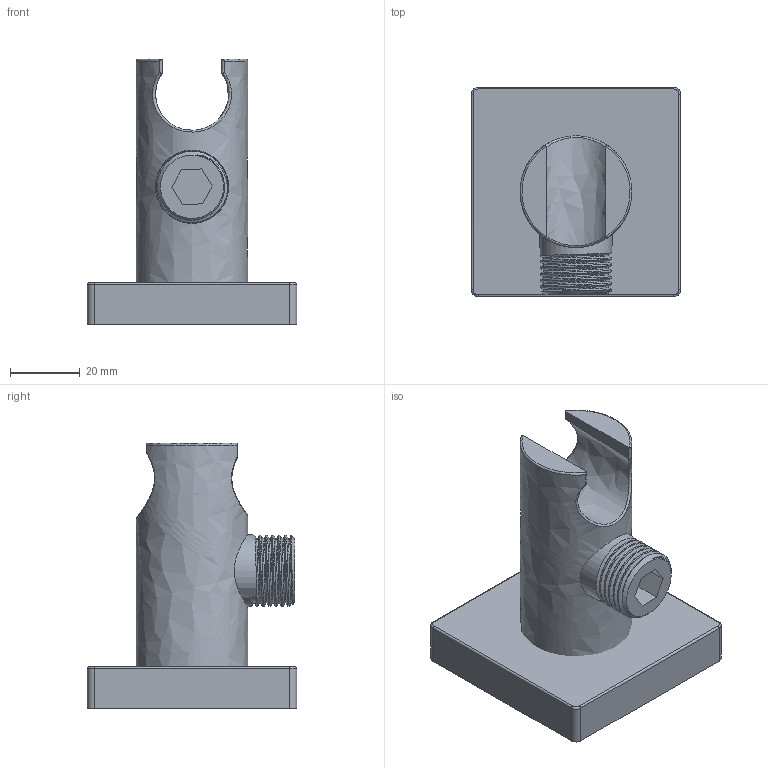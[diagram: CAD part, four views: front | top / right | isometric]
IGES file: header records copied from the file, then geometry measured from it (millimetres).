
Global section: file name: cb65f2d3-61a3-479e-a538-f4166ed42ea6; native system: unknown; preprocessor: unknown; author: unknown; organization: unknown; date: 20191214.155319; units: millimetre
Bounding box: 60 x 60 x 76 mm (x, y, z)
Volume: 91614.9 mm3; surface area: 20898.3 mm2
Topology: 2 solids, 2 shells, 54 faces, 181 edges, 133 vertices
Faces by surface type: bspline 54
